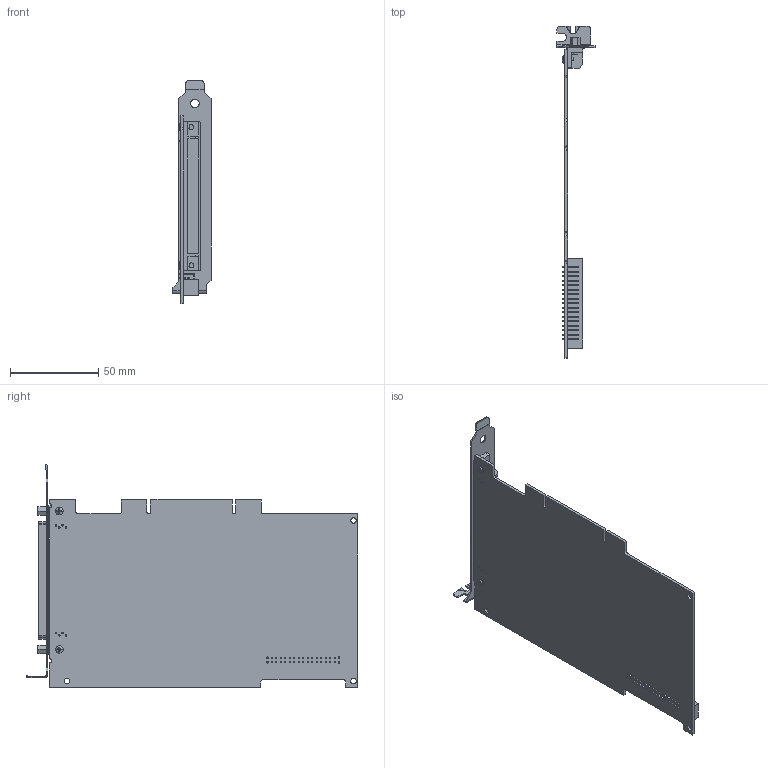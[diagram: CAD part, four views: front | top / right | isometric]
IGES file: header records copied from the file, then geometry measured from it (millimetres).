
Start section:  PTC IGES file: cu_pci-6624.igs
Global section: file name: cu_pci-6624.igs; native system: Pro/ENGINEER by Parametric Technology Corporation; preprocessor: 2010230; author: dkendric; organization: Unknown; date: 20110818.132209; units: inch
Bounding box: 21.59 x 187.77 x 126.21 mm (x, y, z)
Surface area: 45684 mm2 (no closed solid volume)
Topology: 0 solids, 0 shells, 883 faces, 4766 edges, 4722 vertices
Faces by surface type: bspline 711, revolution 172
